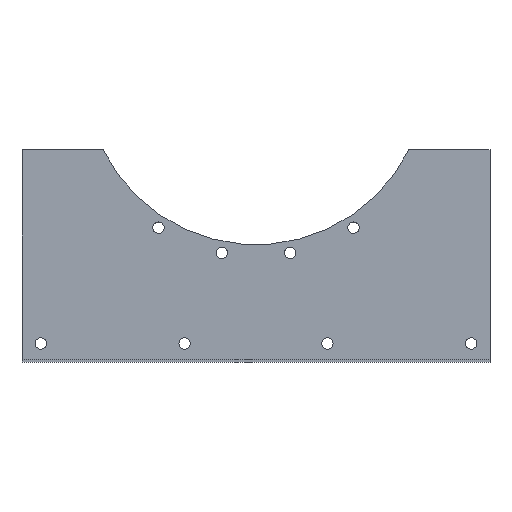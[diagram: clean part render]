
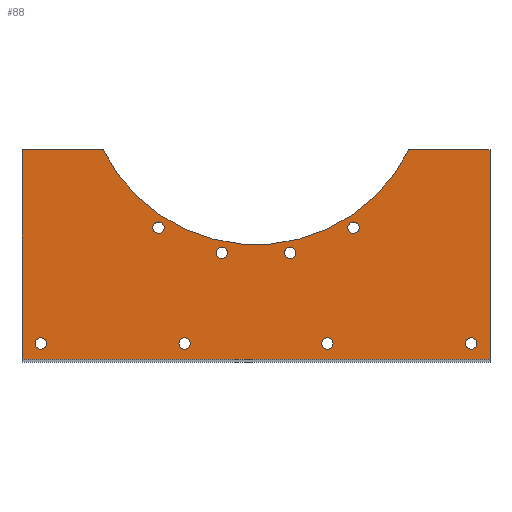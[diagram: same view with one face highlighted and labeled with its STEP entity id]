
A CAD part, top view. The second image highlights one B-rep face of the part: STEP entity #88.
In plain terms, the highlighted planar face has unit normal (0, 0, 1).
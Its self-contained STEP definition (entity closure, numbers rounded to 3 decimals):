
#88=ADVANCED_FACE('',(#184,#185,#186,#187,#188,#189,#190,#191,#192),#193,.T.);
#184=FACE_BOUND('',#285,.T.);
#185=FACE_BOUND('',#286,.T.);
#186=FACE_BOUND('',#287,.T.);
#187=FACE_BOUND('',#288,.T.);
#188=FACE_BOUND('',#289,.T.);
#189=FACE_BOUND('',#290,.T.);
#190=FACE_BOUND('',#291,.T.);
#191=FACE_BOUND('',#292,.T.);
#192=FACE_OUTER_BOUND('',#293,.T.);
#193=PLANE('',#294);
#285=EDGE_LOOP('',(#485,#486));
#286=EDGE_LOOP('',(#487,#488));
#287=EDGE_LOOP('',(#489,#490));
#288=EDGE_LOOP('',(#491,#492));
#289=EDGE_LOOP('',(#493,#494));
#290=EDGE_LOOP('',(#495,#496));
#291=EDGE_LOOP('',(#497,#498));
#292=EDGE_LOOP('',(#499,#500));
#293=EDGE_LOOP('',(#501,#502,#503,#504,#505,#506));
#294=AXIS2_PLACEMENT_3D('',#507,#508,#509);
#485=ORIENTED_EDGE('',*,*,#599,.T.);
#486=ORIENTED_EDGE('',*,*,#604,.T.);
#487=ORIENTED_EDGE('',*,*,#594,.T.);
#488=ORIENTED_EDGE('',*,*,#607,.T.);
#489=ORIENTED_EDGE('',*,*,#589,.T.);
#490=ORIENTED_EDGE('',*,*,#610,.T.);
#491=ORIENTED_EDGE('',*,*,#584,.T.);
#492=ORIENTED_EDGE('',*,*,#613,.T.);
#493=ORIENTED_EDGE('',*,*,#579,.T.);
#494=ORIENTED_EDGE('',*,*,#616,.T.);
#495=ORIENTED_EDGE('',*,*,#574,.T.);
#496=ORIENTED_EDGE('',*,*,#619,.T.);
#497=ORIENTED_EDGE('',*,*,#569,.T.);
#498=ORIENTED_EDGE('',*,*,#622,.T.);
#499=ORIENTED_EDGE('',*,*,#564,.T.);
#500=ORIENTED_EDGE('',*,*,#625,.T.);
#501=ORIENTED_EDGE('',*,*,#627,.T.);
#502=ORIENTED_EDGE('',*,*,#641,.F.);
#503=ORIENTED_EDGE('',*,*,#642,.F.);
#504=ORIENTED_EDGE('',*,*,#643,.F.);
#505=ORIENTED_EDGE('',*,*,#644,.F.);
#506=ORIENTED_EDGE('',*,*,#638,.F.);
#507=CARTESIAN_POINT('',(0.0,3.0,-17.0));
#508=DIRECTION('',(0.0,0.0,1.0));
#509=DIRECTION('',(1.0,0.0,0.0));
#564=EDGE_CURVE('',#664,#661,#665,.T.);
#569=EDGE_CURVE('',#673,#670,#674,.T.);
#574=EDGE_CURVE('',#682,#679,#683,.T.);
#579=EDGE_CURVE('',#691,#688,#692,.T.);
#584=EDGE_CURVE('',#700,#697,#701,.T.);
#589=EDGE_CURVE('',#709,#706,#710,.T.);
#594=EDGE_CURVE('',#718,#715,#719,.T.);
#599=EDGE_CURVE('',#727,#724,#728,.T.);
#604=EDGE_CURVE('',#724,#727,#734,.T.);
#607=EDGE_CURVE('',#715,#718,#737,.T.);
#610=EDGE_CURVE('',#706,#709,#740,.T.);
#613=EDGE_CURVE('',#697,#700,#743,.T.);
#616=EDGE_CURVE('',#688,#691,#746,.T.);
#619=EDGE_CURVE('',#679,#682,#749,.T.);
#622=EDGE_CURVE('',#670,#673,#752,.T.);
#625=EDGE_CURVE('',#661,#664,#755,.T.);
#627=EDGE_CURVE('',#757,#758,#759,.T.);
#638=EDGE_CURVE('',#757,#776,#777,.T.);
#641=EDGE_CURVE('',#780,#758,#781,.T.);
#642=EDGE_CURVE('',#782,#780,#783,.T.);
#643=EDGE_CURVE('',#784,#782,#785,.T.);
#644=EDGE_CURVE('',#776,#784,#786,.T.);
#661=VERTEX_POINT('',#807);
#664=VERTEX_POINT('',#811);
#665=CIRCLE('',#812,6.0);
#670=VERTEX_POINT('',#818);
#673=VERTEX_POINT('',#822);
#674=CIRCLE('',#823,6.0);
#679=VERTEX_POINT('',#829);
#682=VERTEX_POINT('',#833);
#683=CIRCLE('',#834,6.0);
#688=VERTEX_POINT('',#840);
#691=VERTEX_POINT('',#844);
#692=CIRCLE('',#845,6.0);
#697=VERTEX_POINT('',#851);
#700=VERTEX_POINT('',#855);
#701=CIRCLE('',#856,6.0);
#706=VERTEX_POINT('',#862);
#709=VERTEX_POINT('',#866);
#710=CIRCLE('',#867,6.0);
#715=VERTEX_POINT('',#873);
#718=VERTEX_POINT('',#877);
#719=CIRCLE('',#878,6.0);
#724=VERTEX_POINT('',#884);
#727=VERTEX_POINT('',#888);
#728=CIRCLE('',#889,6.0);
#734=CIRCLE('',#896,6.0);
#737=CIRCLE('',#899,6.0);
#740=CIRCLE('',#902,6.0);
#743=CIRCLE('',#905,6.0);
#746=CIRCLE('',#908,6.0);
#749=CIRCLE('',#911,6.0);
#752=CIRCLE('',#914,6.0);
#755=CIRCLE('',#917,6.0);
#757=VERTEX_POINT('',#919);
#758=VERTEX_POINT('',#920);
#759=CIRCLE('',#921,180.5);
#776=VERTEX_POINT('',#945);
#777=LINE('',#946,#947);
#780=VERTEX_POINT('',#951);
#781=LINE('',#952,#953);
#782=VERTEX_POINT('',#954);
#783=LINE('',#955,#956);
#784=VERTEX_POINT('',#957);
#785=LINE('',#958,#959);
#786=LINE('',#960,#961);
#807=CARTESIAN_POINT('',(-221.5,-92.5,-17.0));
#811=CARTESIAN_POINT('',(-233.5,-92.5,-17.0));
#812=AXIS2_PLACEMENT_3D('',#991,#992,#993);
#818=CARTESIAN_POINT('',(233.5,-92.5,-17.0));
#822=CARTESIAN_POINT('',(221.5,-92.5,-17.0));
#823=AXIS2_PLACEMENT_3D('',#999,#1000,#1001);
#829=CARTESIAN_POINT('',(-69.5,-92.5,-17.0));
#833=CARTESIAN_POINT('',(-81.5,-92.5,-17.0));
#834=AXIS2_PLACEMENT_3D('',#1007,#1008,#1009);
#840=CARTESIAN_POINT('',(81.5,-92.5,-17.0));
#844=CARTESIAN_POINT('',(69.5,-92.5,-17.0));
#845=AXIS2_PLACEMENT_3D('',#1015,#1016,#1017);
#851=CARTESIAN_POINT('',(41.965,4.534,-17.0));
#855=CARTESIAN_POINT('',(30.177,2.285,-17.0));
#856=AXIS2_PLACEMENT_3D('',#1023,#1024,#1025);
#862=CARTESIAN_POINT('',(-30.177,2.285,-17.0));
#866=CARTESIAN_POINT('',(-41.965,4.534,-17.0));
#867=AXIS2_PLACEMENT_3D('',#1031,#1032,#1033);
#873=CARTESIAN_POINT('',(-98.081,26.752,-17.0));
#877=CARTESIAN_POINT('',(-108.213,33.182,-17.0));
#878=AXIS2_PLACEMENT_3D('',#1039,#1040,#1041);
#884=CARTESIAN_POINT('',(108.213,33.182,-17.0));
#888=CARTESIAN_POINT('',(98.081,26.752,-17.0));
#889=AXIS2_PLACEMENT_3D('',#1047,#1048,#1049);
#896=AXIS2_PLACEMENT_3D('',#1057,#1058,#1059);
#899=AXIS2_PLACEMENT_3D('',#1063,#1064,#1065);
#902=AXIS2_PLACEMENT_3D('',#1069,#1070,#1071);
#905=AXIS2_PLACEMENT_3D('',#1075,#1076,#1077);
#908=AXIS2_PLACEMENT_3D('',#1081,#1082,#1083);
#911=AXIS2_PLACEMENT_3D('',#1087,#1088,#1089);
#914=AXIS2_PLACEMENT_3D('',#1093,#1094,#1095);
#917=AXIS2_PLACEMENT_3D('',#1099,#1100,#1101);
#919=CARTESIAN_POINT('',(161.803,112.5,-17.0));
#920=CARTESIAN_POINT('',(-161.803,112.5,-17.0));
#921=AXIS2_PLACEMENT_3D('',#1102,#1103,#1104);
#945=CARTESIAN_POINT('',(247.5,112.5,-17.0));
#946=CARTESIAN_POINT('',(0.0,112.5,-17.0));
#947=VECTOR('',#1115,1.0);
#951=CARTESIAN_POINT('',(-247.5,112.5,-17.0));
#952=CARTESIAN_POINT('',(0.0,112.5,-17.0));
#953=VECTOR('',#1117,1.0);
#954=CARTESIAN_POINT('',(-247.5,-109.5,-17.0));
#955=CARTESIAN_POINT('',(-247.5,1.5,-17.0));
#956=VECTOR('',#1118,1.0);
#957=CARTESIAN_POINT('',(247.5,-109.5,-17.0));
#958=CARTESIAN_POINT('',(0.0,-109.5,-17.0));
#959=VECTOR('',#1119,1.0);
#960=CARTESIAN_POINT('',(247.5,1.5,-17.0));
#961=VECTOR('',#1120,1.0);
#991=CARTESIAN_POINT('',(-227.5,-92.5,-17.0));
#992=DIRECTION('',(0.0,0.0,-1.0));
#993=DIRECTION('',(1.0,0.0,0.0));
#999=CARTESIAN_POINT('',(227.5,-92.5,-17.0));
#1000=DIRECTION('',(0.0,0.0,-1.0));
#1001=DIRECTION('',(1.0,0.0,0.0));
#1007=CARTESIAN_POINT('',(-75.5,-92.5,-17.0));
#1008=DIRECTION('',(0.0,0.0,-1.0));
#1009=DIRECTION('',(1.0,0.0,0.0));
#1015=CARTESIAN_POINT('',(75.5,-92.5,-17.0));
#1016=DIRECTION('',(0.0,0.0,-1.0));
#1017=DIRECTION('',(1.0,0.0,0.0));
#1023=CARTESIAN_POINT('',(36.071,3.41,-17.0));
#1024=DIRECTION('',(0.0,0.0,-1.0));
#1025=DIRECTION('',(0.982,0.187,0.0));
#1031=CARTESIAN_POINT('',(-36.071,3.41,-17.0));
#1032=DIRECTION('',(0.0,-0.0,-1.0));
#1033=DIRECTION('',(0.982,-0.187,0.0));
#1039=CARTESIAN_POINT('',(-103.147,29.967,-17.0));
#1040=DIRECTION('',(0.0,-0.0,-1.0));
#1041=DIRECTION('',(0.844,-0.536,0.0));
#1047=CARTESIAN_POINT('',(103.147,29.967,-17.0));
#1048=DIRECTION('',(0.0,0.0,-1.0));
#1049=DIRECTION('',(0.844,0.536,0.0));
#1057=CARTESIAN_POINT('',(103.147,29.967,-17.0));
#1058=DIRECTION('',(0.0,0.0,-1.0));
#1059=DIRECTION('',(0.844,0.536,0.0));
#1063=CARTESIAN_POINT('',(-103.147,29.967,-17.0));
#1064=DIRECTION('',(0.0,-0.0,-1.0));
#1065=DIRECTION('',(0.844,-0.536,0.0));
#1069=CARTESIAN_POINT('',(-36.071,3.41,-17.0));
#1070=DIRECTION('',(0.0,-0.0,-1.0));
#1071=DIRECTION('',(0.982,-0.187,0.0));
#1075=CARTESIAN_POINT('',(36.071,3.41,-17.0));
#1076=DIRECTION('',(0.0,0.0,-1.0));
#1077=DIRECTION('',(0.982,0.187,0.0));
#1081=CARTESIAN_POINT('',(75.5,-92.5,-17.0));
#1082=DIRECTION('',(0.0,0.0,-1.0));
#1083=DIRECTION('',(1.0,0.0,0.0));
#1087=CARTESIAN_POINT('',(-75.5,-92.5,-17.0));
#1088=DIRECTION('',(0.0,0.0,-1.0));
#1089=DIRECTION('',(1.0,0.0,0.0));
#1093=CARTESIAN_POINT('',(227.5,-92.5,-17.0));
#1094=DIRECTION('',(0.0,0.0,-1.0));
#1095=DIRECTION('',(1.0,0.0,0.0));
#1099=CARTESIAN_POINT('',(-227.5,-92.5,-17.0));
#1100=DIRECTION('',(0.0,0.0,-1.0));
#1101=DIRECTION('',(1.0,0.0,0.0));
#1102=CARTESIAN_POINT('',(0.0,192.5,-17.0));
#1103=DIRECTION('',(0.0,0.0,-1.0));
#1104=DIRECTION('',(1.0,0.0,0.0));
#1115=DIRECTION('',(1.0,0.0,-0.0));
#1117=DIRECTION('',(1.0,0.0,-0.0));
#1118=DIRECTION('',(0.0,1.0,0.0));
#1119=DIRECTION('',(-1.0,0.0,0.0));
#1120=DIRECTION('',(0.0,-1.0,0.0));
